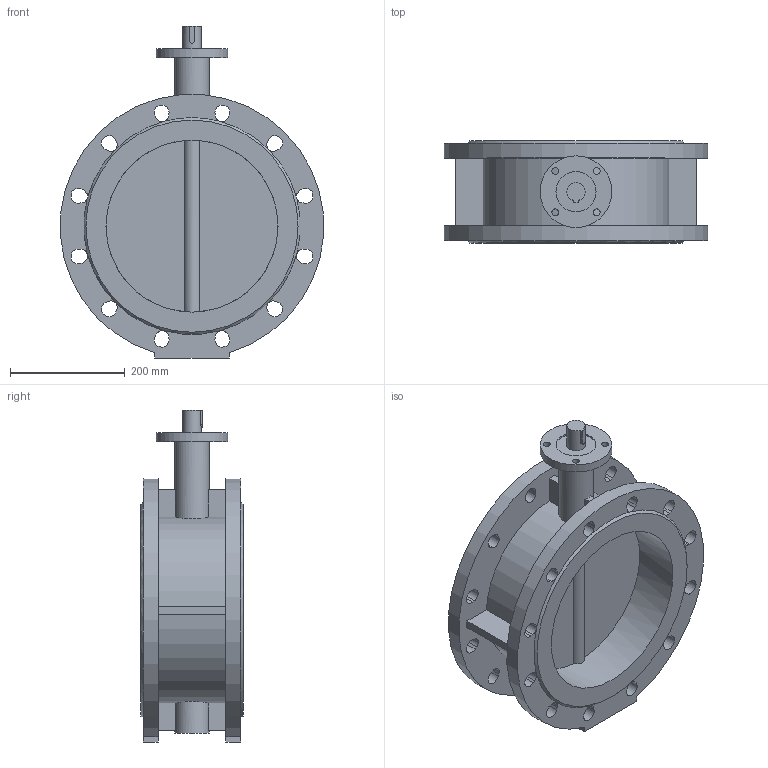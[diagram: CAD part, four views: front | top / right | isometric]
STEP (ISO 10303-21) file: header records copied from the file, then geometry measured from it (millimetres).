
FILE_DESCRIPTION(('STEP AP203'), '1');
FILE_NAME('Çàòâîð 021F.Y DN300 PN10_16 ïîä ÝÏ', '', ('UNSPECIFIED'), ('UNSPECIFIED'), 'ASCON STEP Converter 1.6', 'ASCON Math Kernel', '');
FILE_SCHEMA(('CONFIG_CONTROL_DESIGN'));
Length unit declared in the file: millimetre
Bounding box: 458.77 x 178 x 579 mm (x, y, z)
Volume: 8431451.1 mm3; surface area: 976358.6 mm2
Topology: 1 solids, 1 shells, 160 faces, 495 edges, 322 vertices
Faces by surface type: plane 90, cylinder 68, cone 2
Full cylindrical faces by diameter (mm): 12 x4, 31.7 x1, 60 x2, 70 x1, 125 x1, 300 x2
Entity records: 7707 total; most frequent: CARTESIAN_POINT 1842, DIRECTION 951, ORIENTED_EDGE 932, EDGE_CURVE 466, AXIS2_PLACEMENT_3D 335, VERTEX_POINT 314, LINE 281, VECTOR 281
